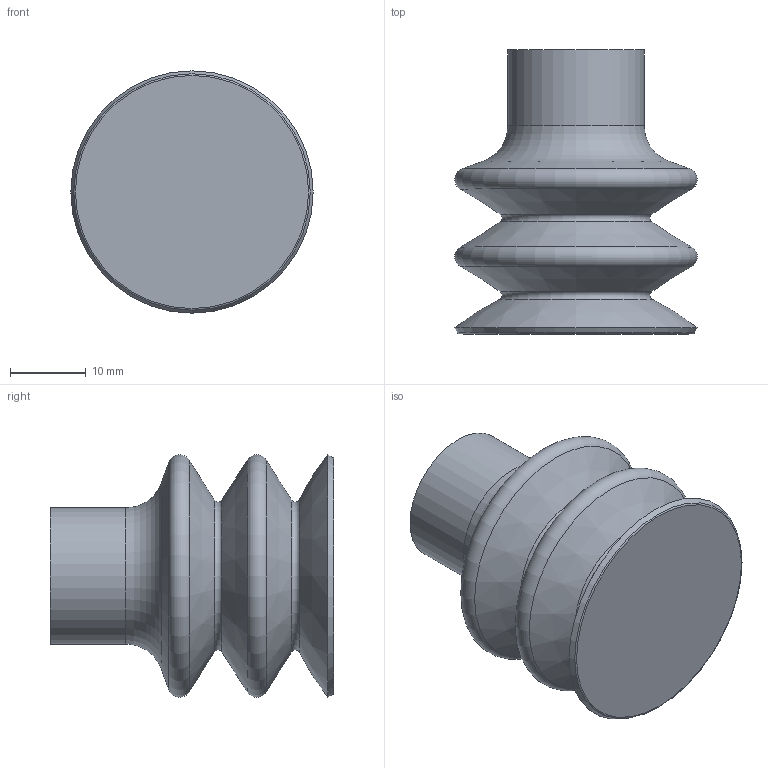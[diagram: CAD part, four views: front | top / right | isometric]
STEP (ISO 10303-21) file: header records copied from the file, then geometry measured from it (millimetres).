
FILE_DESCRIPTION(/* description */ (''),/* implementation_level */ '2;1');
FILE_NAME(/* name */ 'W:\Technik\Konstruktion\CAD-Daten\Vakuumsauger\21_\21.032.154\Inventor-Datei\21.032.154_Kd neu.stp',/* time_stamp */ '2017-07-04T13:28:15+02:00',/* author */ ('DFloßmann'),/* organization */ (''),/* preprocessor_version */ 'ST-DEVELOPER v16.5',/* originating_system */ 'Autodesk Inventor 2017',/* authorisation */ '');
FILE_SCHEMA (('AUTOMOTIVE_DESIGN { 1 0 10303 214 3 1 1 }'));
Length unit declared in the file: millimetre
Products named in the file (1): 21.032.154_Kd neu
Bounding box: 32 x 37.5 x 32 mm (x, y, z)
Volume: 12681.9 mm3; surface area: 8874.7 mm2
Topology: 1 solids, 7 shells, 61 faces, 156 edges, 92 vertices
Faces by surface type: cone 22, sphere 16, torus 14, plane 5, cylinder 3, bspline 1
Full cylindrical faces by diameter (mm): 8 x1, 15.5 x1, 18 x1
Entity records: 1768 total; most frequent: CARTESIAN_POINT 653, DIRECTION 224, ORIENTED_EDGE 194, AXIS2_PLACEMENT_3D 112, EDGE_CURVE 96, EDGE_LOOP 87, VERTEX_POINT 71, FACE_OUTER_BOUND 57
